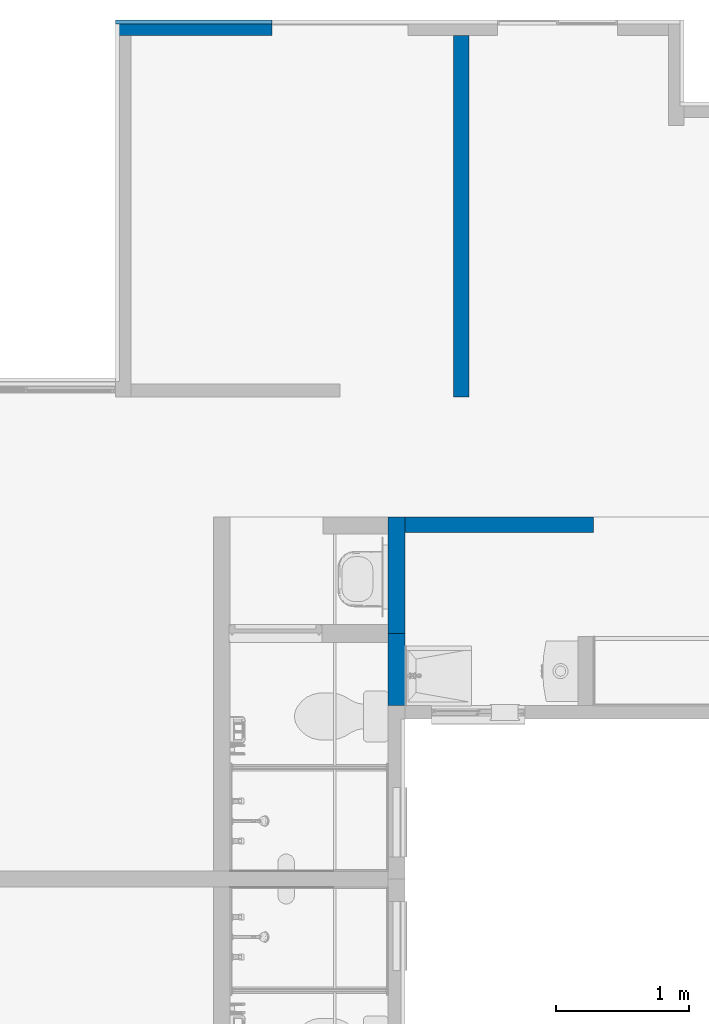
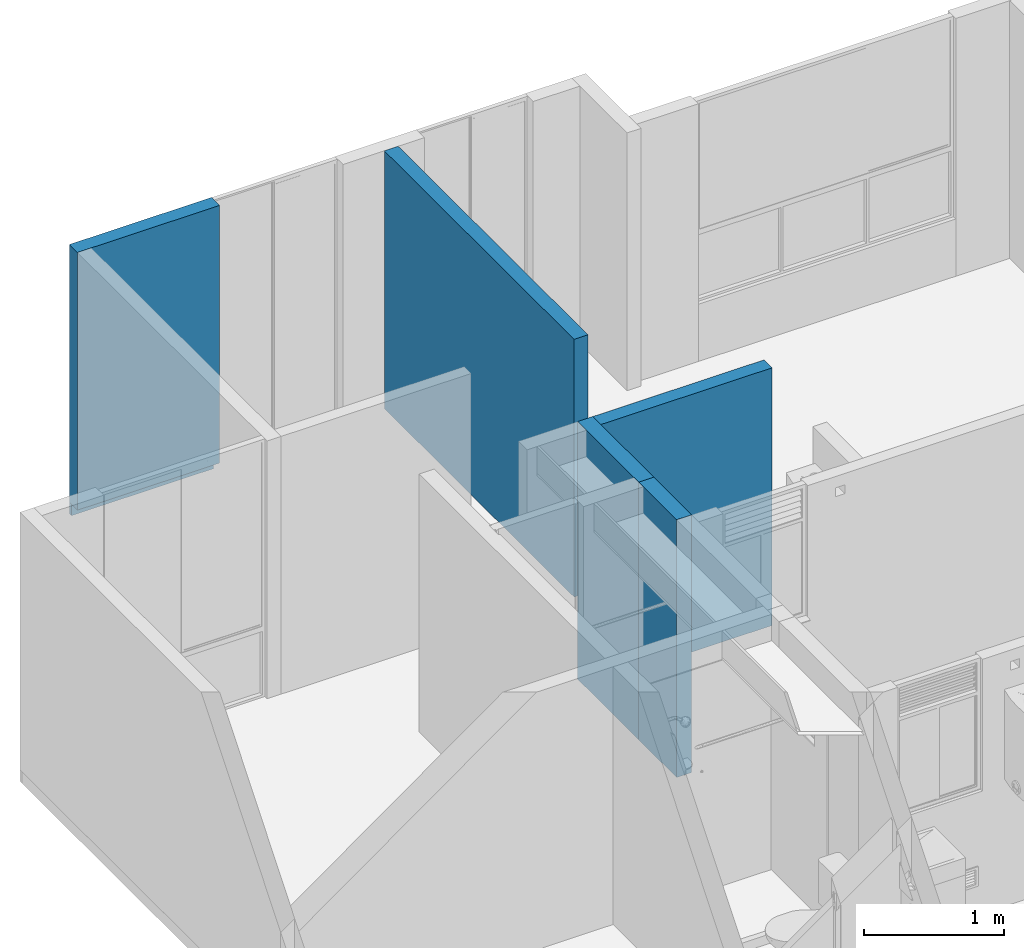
# One storey, part 16 of 48: 6 walls.
"""IFC4 building model written with IfcOpenShell, lengths in metres."""

from ifc_helpers import new_model, entity, si_unit, converted_unit, derived_unit, direction, frame, origin, place, context, subcontext, project, spatial, indexed_curve, outline, extrude, material, constituent, constituent_set, type_object, element, save


model = new_model("IFC4")

# Units and contexts
model_context = context("Model", 3, precision=1e-05, world=origin(), true_north=direction((6.123031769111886e-17, 1.0)))
body_context = subcontext(model_context, "Body", "Model", "MODEL_VIEW")
ifc_project = project(units=[si_unit("LENGTHUNIT", "METRE"), si_unit("AREAUNIT", "SQUARE_METRE"), si_unit("VOLUMEUNIT", "CUBIC_METRE"), converted_unit("PLANEANGLEUNIT", "DEGREE", entity("IfcRatioMeasure", 0.017453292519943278), si_unit("PLANEANGLEUNIT", "RADIAN"), dimensions=[0, 0, 0, 0, 0, 0, 0]), si_unit("MASSUNIT", "GRAM", prefix="KILO"), derived_unit("MASSDENSITYUNIT", [(si_unit("MASSUNIT", "GRAM", prefix="KILO"), 1), (si_unit("LENGTHUNIT", "METRE"), -3)]), derived_unit("IONCONCENTRATIONUNIT", [(si_unit("MASSUNIT", "GRAM", prefix="KILO"), 1), (si_unit("LENGTHUNIT", "METRE"), -3)]), derived_unit("MOMENTOFINERTIAUNIT", [(si_unit("LENGTHUNIT", "METRE"), 4)]), si_unit("TIMEUNIT", "SECOND"), si_unit("FREQUENCYUNIT", "HERTZ"), si_unit("THERMODYNAMICTEMPERATUREUNIT", "DEGREE_CELSIUS"), derived_unit("THERMALTRANSMITTANCEUNIT", [(si_unit("MASSUNIT", "GRAM", prefix="KILO"), 1), (si_unit("THERMODYNAMICTEMPERATUREUNIT", "KELVIN"), -1), (si_unit("TIMEUNIT", "SECOND"), -3)]), derived_unit("THERMALCONDUCTANCEUNIT", [(si_unit("MASSUNIT", "GRAM", prefix="KILO"), 1), (si_unit("THERMODYNAMICTEMPERATUREUNIT", "KELVIN"), -1), (si_unit("TIMEUNIT", "SECOND"), -3), (si_unit("LENGTHUNIT", "METRE"), 1)]), derived_unit("VOLUMETRICFLOWRATEUNIT", [(si_unit("LENGTHUNIT", "METRE"), 3), (si_unit("TIMEUNIT", "SECOND"), -1)]), derived_unit("MASSFLOWRATEUNIT", [(si_unit("MASSUNIT", "GRAM", prefix="KILO"), 1), (si_unit("TIMEUNIT", "SECOND"), -1)]), derived_unit("ROTATIONALFREQUENCYUNIT", [(si_unit("TIMEUNIT", "SECOND"), -1)]), si_unit("ELECTRICCURRENTUNIT", "AMPERE"), si_unit("ELECTRICVOLTAGEUNIT", "VOLT"), si_unit("POWERUNIT", "WATT"), si_unit("FORCEUNIT", "NEWTON", prefix="KILO"), si_unit("ILLUMINANCEUNIT", "LUX"), si_unit("LUMINOUSFLUXUNIT", "LUMEN"), si_unit("LUMINOUSINTENSITYUNIT", "CANDELA"), derived_unit("USERDEFINED", [(si_unit("MASSUNIT", "GRAM", prefix="KILO"), -1), (si_unit("LENGTHUNIT", "METRE"), -2), (si_unit("TIMEUNIT", "SECOND"), 3), (si_unit("LUMINOUSFLUXUNIT", "LUMEN"), 1)]), derived_unit("USERDEFINED", [(si_unit("MASSUNIT", "GRAM", prefix="KILO"), 1), (si_unit("TIMEUNIT", "SECOND"), -3), (si_unit("LENGTHUNIT", "METRE"), 3), (si_unit("ELECTRICCURRENTUNIT", "AMPERE"), -2)]), derived_unit("SOUNDPOWERUNIT", [(si_unit("MASSUNIT", "GRAM", prefix="KILO"), 1), (si_unit("TIMEUNIT", "SECOND"), -3), (si_unit("LENGTHUNIT", "METRE"), 2)]), derived_unit("SOUNDPRESSUREUNIT", [(si_unit("MASSUNIT", "GRAM", prefix="KILO"), 1), (si_unit("LENGTHUNIT", "METRE"), -1), (si_unit("TIMEUNIT", "SECOND"), -2)]), derived_unit("LINEARVELOCITYUNIT", [(si_unit("LENGTHUNIT", "METRE"), 1), (si_unit("TIMEUNIT", "SECOND"), -1)]), si_unit("PRESSUREUNIT", "PASCAL"), derived_unit("USERDEFINED", [(si_unit("MASSUNIT", "GRAM", prefix="KILO"), 1), (si_unit("LENGTHUNIT", "METRE"), -2), (si_unit("TIMEUNIT", "SECOND"), -2)]), derived_unit("LINEARFORCEUNIT", [(si_unit("MASSUNIT", "GRAM", prefix="KILO"), 1), (si_unit("TIMEUNIT", "SECOND"), -2)]), derived_unit("PLANARFORCEUNIT", [(si_unit("MASSUNIT", "GRAM", prefix="KILO"), 1), (si_unit("LENGTHUNIT", "METRE"), -1), (si_unit("TIMEUNIT", "SECOND"), -2)]), derived_unit("SPECIFICHEATCAPACITYUNIT", [(si_unit("THERMODYNAMICTEMPERATUREUNIT", "KELVIN"), -1), (si_unit("LENGTHUNIT", "METRE"), 2), (si_unit("TIMEUNIT", "SECOND"), -2)]), derived_unit("HEATINGVALUEUNIT", [(si_unit("LENGTHUNIT", "METRE"), 2), (si_unit("TIMEUNIT", "SECOND"), -2)]), derived_unit("VAPORPERMEABILITYUNIT", [(si_unit("LENGTHUNIT", "METRE"), -1), (si_unit("TIMEUNIT", "SECOND"), 1)]), derived_unit("DYNAMICVISCOSITYUNIT", [(si_unit("MASSUNIT", "GRAM", prefix="KILO"), 1), (si_unit("TIMEUNIT", "SECOND"), -1), (si_unit("LENGTHUNIT", "METRE"), -1)]), derived_unit("THERMALEXPANSIONCOEFFICIENTUNIT", [(si_unit("THERMODYNAMICTEMPERATUREUNIT", "KELVIN"), -1)]), derived_unit("MODULUSOFELASTICITYUNIT", [(si_unit("MASSUNIT", "GRAM", prefix="KILO"), 1), (si_unit("LENGTHUNIT", "METRE"), -1), (si_unit("TIMEUNIT", "SECOND"), -2)]), derived_unit("ISOTHERMALMOISTURECAPACITYUNIT", [(si_unit("LENGTHUNIT", "METRE"), 3), (si_unit("MASSUNIT", "GRAM", prefix="KILO"), -1)]), derived_unit("MOISTUREDIFFUSIVITYUNIT", [(si_unit("TIMEUNIT", "SECOND"), -1), (si_unit("LENGTHUNIT", "METRE"), 2)])], contexts=[model_context])

# Site, building, storey
site_placement = place(None, origin())
site = spatial("IfcSite", under=ifc_project, at=site_placement, Name="Default", CompositionType="ELEMENT")
building_placement = place(site_placement, origin())
building = spatial("IfcBuilding", under=site, at=building_placement, CompositionType="ELEMENT")
storey_placement = place(building_placement, frame((0.0, 0.0, 7.050000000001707)))
storey = spatial("IfcBuildingStorey", under=building, at=storey_placement, Name="Nivel 4", CompositionType="ELEMENT", Elevation=7.050000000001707)

# Walls
ifc_material_1 = material(Name="LADRILLO CLARO", Category="Materials")
wall_type_1 = type_object("IfcWallType", Name="Basic Wall:B2010 - 0.115m - ME mampostería no estructural - Ladrillo", PredefinedType="STANDARD")
wall_1_placement = place(storey_placement, frame((3.091699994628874, -0.03750002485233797, 0.0), z_axis=(0.0, 0.0, 1.0), x_axis=(-1.0, 0.0, 0.0)))
element("IfcWall", 1, at=wall_1_placement, inside=storey, type_object=wall_type_1, material=ifc_material_1, Name="Basic Wall:B2010 - 0.115m - ME mampostería no estructural - Ladrillo", ObjectType="Basic Wall:B2010 - 0.115m - ME mampostería no estructural - Ladrillo", PredefinedType="NOTDEFINED", context=body_context, shape_type="SweptSolid", body=[
    extrude(outline(indexed_curve([(1.1742000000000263, 0.05749999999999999), (-5.076575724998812e-17, 0.05749999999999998), (5.076575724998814e-17, -0.0575), (1.1742000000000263, -0.0575), (1.1742000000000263, 0.05749999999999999)], self_intersect=False)), origin(), (0.0, 0.0, 1.0), 2.250000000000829),
])
ifc_material_2 = material(Name="Ladrillo claro (Aire)", Category="Materials")
wall_type_2 = type_object("IfcWallType", Name="Basic Wall:B2010 - 0.115m - Muro interior en mampostería - Ladrillo", PredefinedType="STANDARD")
wall_2_placement = place(storey_placement, frame((4.509999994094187, -0.09500002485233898, 0.0), z_axis=(0.0, 0.0, 1.0), x_axis=(0.0, -1.0, 0.0)))
element("IfcWall", 2, at=wall_2_placement, inside=storey, type_object=wall_type_2, material=ifc_material_2, Name="Basic Wall:B2010 - 0.115m - Muro interior en mampostería - Ladrillo", ObjectType="Basic Wall:B2010 - 0.115m - Muro interior en mampostería - Ladrillo", PredefinedType="NOTDEFINED", context=body_context, shape_type="SweptSolid", body=[
    extrude(outline(indexed_curve([(2.7150000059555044, 0.057500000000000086), (-2.3733436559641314e-18, 0.057499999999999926), (2.3733436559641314e-18, -0.057499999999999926), (2.7150000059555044, -0.05749999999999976), (2.7150000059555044, 0.057500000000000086)], self_intersect=False)), origin(), (0.0, 0.0, 1.0), 2.2499999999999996),
])
wall_3_placement = place(storey_placement, frame((4.087499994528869, -3.7675000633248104, 0.0)))
element("IfcWall", 3, at=wall_3_placement, inside=storey, type_object=wall_type_2, material=ifc_material_2, Name="Basic Wall:B2010 - 0.115m - Muro interior en mampostería - Ladrillo", ObjectType="Basic Wall:B2010 - 0.115m - Muro interior en mampostería - Ladrillo", PredefinedType="NOTDEFINED", context=body_context, shape_type="SweptSolid", body=[
    extrude(outline(indexed_curve([(1.4149999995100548, 0.05749999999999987), (-1.9595423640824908e-16, 0.057499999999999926), (1.9595423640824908e-16, -0.057499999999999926), (1.4149999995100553, -0.057499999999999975), (1.4149999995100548, 0.05749999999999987)], self_intersect=False)), origin(), (0.0, 0.0, 1.0), 2.2499999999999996),
])
ifc_material_3 = material(Name="Pañete, estuco y pintura", Category="Materials")
ifc_constituent_1 = constituent(ifc_material_3, Name="Pañete, estuco y pintura", Category="Materials")
ifc_constituent_2 = constituent(ifc_material_2, Name="Ladrillo claro (Aire)", Category="Materials")
ifc_constituent_set = constituent_set(constituents=[ifc_constituent_1, ifc_constituent_2], Name="Basic Wall:B2010 - 0.115m - Muro interior en mampostería - Ladrillo + Pañete+ estuco+ pintura")
wall_type_3 = type_object("IfcWallType", Name="Basic Wall:B2010 - 0.115m - Muro interior en mampostería - Ladrillo + Pañete+ estuco+ pintura", PredefinedType="STANDARD", material=ifc_constituent_set)
wall_4_placement = place(storey_placement, frame((4.024999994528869, -3.7100000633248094, 0.0), z_axis=(0.0, 0.0, 1.0), x_axis=(0.0, -1.0, 0.0)))
element("IfcWall", 4, at=wall_4_placement, inside=storey, type_object=wall_type_3, material=ifc_constituent_set, Name="Basic Wall:B2010 - 0.115m - Muro interior en mampostería - Ladrillo + Pañete+ estuco+ pintura", ObjectType="Basic Wall:B2010 - 0.115m - Muro interior en mampostería - Ladrillo + Pañete+ estuco+ pintura", PredefinedType="NOTDEFINED", context=body_context, shape_type="SweptSolid", body=[
    extrude(outline(indexed_curve([(-0.32083333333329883, -0.0033333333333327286), (0.35916666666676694, -0.0033333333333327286), (0.42666666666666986, -0.0033333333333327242), (0.4266666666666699, 0.0066666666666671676), (-0.4458333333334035, 0.0066666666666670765), (-0.44583333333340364, -0.0033333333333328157), (-0.32083333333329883, -0.0033333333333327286)], self_intersect=False)), frame((0.44583333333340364, -0.05916666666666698, 0.0)), (0.0, 0.0, 1.0), 2.2499999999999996),
    extrude(outline(indexed_curve([(0.25700000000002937, -0.04599999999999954), (0.37200000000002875, -0.04599999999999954), (0.37200000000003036, 0.0690000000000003), (-0.5005000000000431, 0.06900000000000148), (-0.5005000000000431, -0.04599999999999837), (0.25700000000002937, -0.04599999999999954)], self_intersect=False)), frame((0.3720000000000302, 0.016500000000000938, 0.0), z_axis=(0.0, 0.0, 1.0), x_axis=(-1.0, 0.0, 0.0)), (0.0, 0.0, 1.0), 2.2499999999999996),
])
wall_5_placement = place(storey_placement, frame((4.024999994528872, -4.582500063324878, 0.0), z_axis=(0.0, 0.0, 1.0), x_axis=(0.0, -1.0, 0.0)))
element("IfcWall", 5, at=wall_5_placement, inside=storey, type_object=wall_type_3, material=ifc_constituent_set, Name="Basic Wall:B2010 - 0.115m - Muro interior en mampostería - Ladrillo + Pañete+ estuco+ pintura", ObjectType="Basic Wall:B2010 - 0.115m - Muro interior en mampostería - Ladrillo + Pañete+ estuco+ pintura", PredefinedType="NOTDEFINED", context=body_context, shape_type="SweptSolid", body=[
    extrude(outline(indexed_curve([(-0.1628056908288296, -0.004000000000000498), (0.3117085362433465, -0.004000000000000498), (0.31170853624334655, 0.005999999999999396), (-0.23030569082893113, 0.005999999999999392), (-0.2303056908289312, -0.0040000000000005), (-0.1628056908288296, -0.004000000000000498)], self_intersect=False)), frame((0.23030569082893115, -0.058499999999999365, 0.0)), (0.0, 0.0, 1.0), 2.2499999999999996),
    extrude(outline(indexed_curve([(0.09067143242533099, -0.03833333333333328), (0.12467143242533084, -0.03833333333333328), (0.21717139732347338, -0.0383333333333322), (0.2171713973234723, 0.07666666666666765), (-0.32484282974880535, 0.07666666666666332), (-0.3248428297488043, -0.03833333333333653), (0.09067143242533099, -0.03833333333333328)], self_intersect=False)), frame((0.21717139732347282, 0.02416666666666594, 0.0), z_axis=(0.0, 0.0, 1.0), x_axis=(-1.0, 0.0, 0.0)), (0.0, 0.0, 1.0), 2.2499999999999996),
])
wall_type_4 = type_object("IfcWallType", Name="Basic Wall:B2010 - 0.03m - ME enchape  no estructural - Ladrillo", PredefinedType="STANDARD")
wall_6_placement = place(storey_placement, frame((3.092499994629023, 0.004999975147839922, -0.10000000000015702), z_axis=(0.0, 0.0, 1.0), x_axis=(-1.0, 0.0, 0.0)))
element("IfcWall", 6, at=wall_6_placement, inside=storey, type_object=wall_type_4, material=ifc_material_1, Name="Basic Wall:B2010 - 0.03m - ME enchape  no estructural - Ladrillo", ObjectType="Basic Wall:B2010 - 0.03m - ME enchape  no estructural - Ladrillo", PredefinedType="NOTDEFINED", context=body_context, shape_type="SweptSolid", body=[
    extrude(outline(indexed_curve([(1.1750000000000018, 0.015), (-1.4243869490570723e-16, 0.015), (1.4243869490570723e-16, -0.015), (1.175000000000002, -0.015), (1.1750000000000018, 0.015)], self_intersect=False)), origin(), (0.0, 0.0, 1.0), 0.09999999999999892),
])

save(model, "model.ifc")
